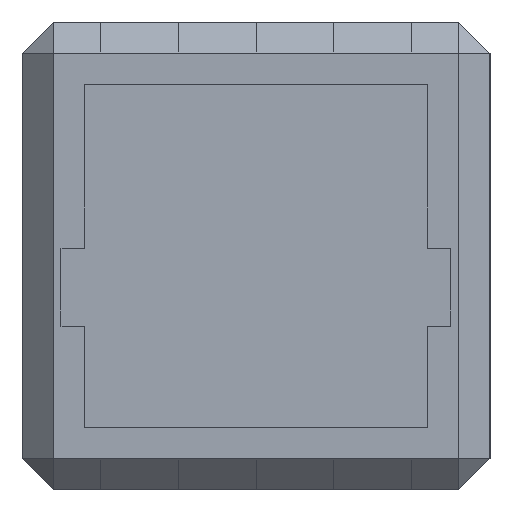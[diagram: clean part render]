
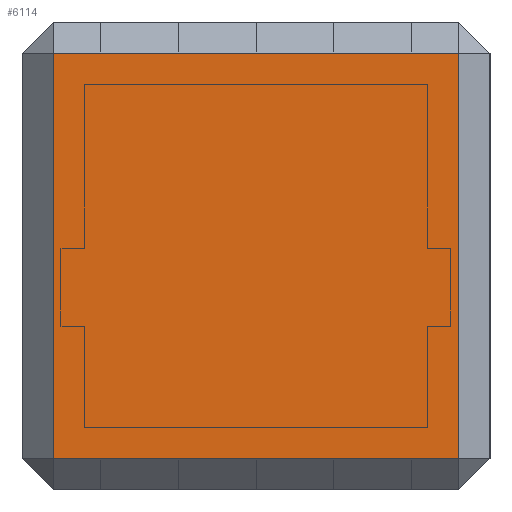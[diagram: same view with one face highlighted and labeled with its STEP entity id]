
A CAD part, left-side view. The second image highlights one B-rep face of the part: STEP entity #6114.
In plain terms, the highlighted planar face has unit normal (-1, 0, 0).
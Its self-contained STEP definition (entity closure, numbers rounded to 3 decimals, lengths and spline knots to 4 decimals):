
#6114=ADVANCED_FACE('',(#17728),#216601,.T.);
#17728=FACE_OUTER_BOUND('',#34177,.T.);
#34177=EDGE_LOOP('',(#73050,#73051,#73052,#73053));
#73050=ORIENTED_EDGE('',*,*,#122955,.F.);
#73051=ORIENTED_EDGE('',*,*,#122956,.F.);
#73052=ORIENTED_EDGE('',*,*,#122957,.F.);
#73053=ORIENTED_EDGE('',*,*,#122954,.F.);
#122954=EDGE_CURVE('',#214916,#214917,#159545,.T.);
#122955=EDGE_CURVE('',#214918,#214916,#159546,.T.);
#122956=EDGE_CURVE('',#214919,#214918,#159547,.T.);
#122957=EDGE_CURVE('',#214917,#214919,#159548,.T.);
#159545=B_SPLINE_CURVE_WITH_KNOTS('',1,(#296969,#296970),.UNSPECIFIED.,
 .F.,.F.,(2,2),(-5.2,0.),.UNSPECIFIED.);
#159546=B_SPLINE_CURVE_WITH_KNOTS('',1,(#296971,#296972),.UNSPECIFIED.,
 .F.,.F.,(2,2),(-5.2,0.),.UNSPECIFIED.);
#159547=B_SPLINE_CURVE_WITH_KNOTS('',1,(#296973,#296974),.UNSPECIFIED.,
 .F.,.F.,(2,2),(-5.2,0.),.UNSPECIFIED.);
#159548=B_SPLINE_CURVE_WITH_KNOTS('',1,(#296975,#296976),.UNSPECIFIED.,
 .F.,.F.,(2,2),(-5.2,0.),.UNSPECIFIED.);
#214916=VERTEX_POINT('',#286246);
#214917=VERTEX_POINT('',#286247);
#214918=VERTEX_POINT('',#286248);
#214919=VERTEX_POINT('',#286249);
#216601=PLANE('',#228570);
#228570=AXIS2_PLACEMENT_3D('',#252000,#240243,$);
#240243=DIRECTION('',(-1.,0.,0.));
#252000=CARTESIAN_POINT('',(-125.,-3.1201,3.1201));
#286246=CARTESIAN_POINT('',(-125.,-2.6,2.6));
#286247=CARTESIAN_POINT('',(-125.,-2.6,-2.6));
#286248=CARTESIAN_POINT('',(-125.,2.6,2.6));
#286249=CARTESIAN_POINT('',(-125.,2.6,-2.6));
#296969=CARTESIAN_POINT('',(-125.,-2.6,2.6));
#296970=CARTESIAN_POINT('',(-125.,-2.6,-2.6));
#296971=CARTESIAN_POINT('',(-125.,2.6,2.6));
#296972=CARTESIAN_POINT('',(-125.,-2.6,2.6));
#296973=CARTESIAN_POINT('',(-125.,2.6,-2.6));
#296974=CARTESIAN_POINT('',(-125.,2.6,2.6));
#296975=CARTESIAN_POINT('',(-125.,-2.6,-2.6));
#296976=CARTESIAN_POINT('',(-125.,2.6,-2.6));
